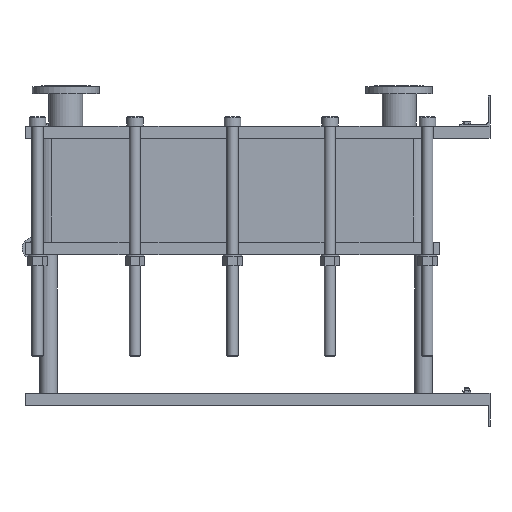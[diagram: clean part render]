
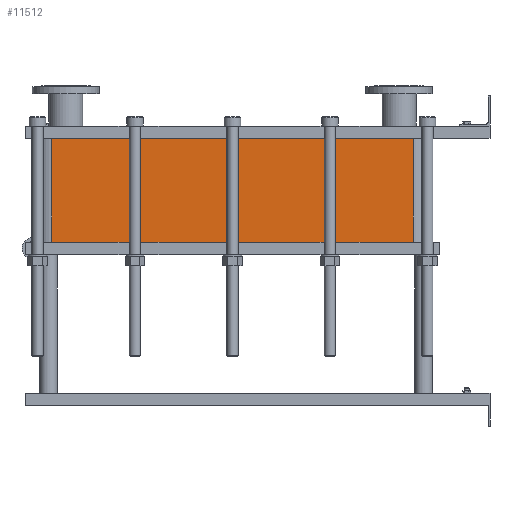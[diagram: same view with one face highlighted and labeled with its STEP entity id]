
A CAD part, left-side view. The second image highlights one B-rep face of the part: STEP entity #11512.
In plain terms, the highlighted planar face has unit normal (-1, 0, 0).
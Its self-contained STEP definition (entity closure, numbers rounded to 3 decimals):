
#1129=LINE('',#23232,#2102);
#1130=LINE('',#23236,#2103);
#1131=LINE('',#23238,#2104);
#1132=LINE('',#23239,#2105);
#2102=VECTOR('',#15887,10.);
#2103=VECTOR('',#15892,10.);
#2104=VECTOR('',#15893,10.);
#2105=VECTOR('',#15894,10.);
#3267=FACE_OUTER_BOUND('',#4093,.T.);
#4093=EDGE_LOOP('',(#10103,#10104,#10105,#10106));
#5642=VERTEX_POINT('',#23229);
#5643=VERTEX_POINT('',#23231);
#5644=VERTEX_POINT('',#23235);
#5645=VERTEX_POINT('',#23237);
#7159=EDGE_CURVE('',#5643,#5642,#1129,.T.);
#7161=EDGE_CURVE('',#5642,#5644,#1130,.T.);
#7162=EDGE_CURVE('',#5645,#5644,#1131,.T.);
#7163=EDGE_CURVE('',#5645,#5643,#1132,.T.);
#10103=ORIENTED_EDGE('',*,*,#7161,.T.);
#10104=ORIENTED_EDGE('',*,*,#7162,.F.);
#10105=ORIENTED_EDGE('',*,*,#7163,.T.);
#10106=ORIENTED_EDGE('',*,*,#7159,.T.);
#10857=PLANE('',#12751);
#11512=ADVANCED_FACE('',(#3267),#10857,.T.);
#12751=AXIS2_PLACEMENT_3D('',#23234,#15890,#15891);
#15887=DIRECTION('',(0.,0.,-1.));
#15890=DIRECTION('center_axis',(-1.,0.,0.));
#15891=DIRECTION('ref_axis',(0.,1.,0.));
#15892=DIRECTION('',(0.,-1.,0.));
#15893=DIRECTION('',(0.,0.,-1.));
#15894=DIRECTION('',(0.,1.,0.));
#23229=CARTESIAN_POINT('',(-200.,1414.,-334.65));
#23231=CARTESIAN_POINT('',(-200.,1414.,0.));
#23232=CARTESIAN_POINT('',(-200.,1414.,0.));
#23234=CARTESIAN_POINT('Origin',(-200.,248.,0.));
#23235=CARTESIAN_POINT('',(-200.,248.,-334.65));
#23236=CARTESIAN_POINT('',(-200.,539.5,-334.65));
#23237=CARTESIAN_POINT('',(-200.,248.,0.));
#23238=CARTESIAN_POINT('',(-200.,248.,0.));
#23239=CARTESIAN_POINT('',(-200.,248.,0.));
